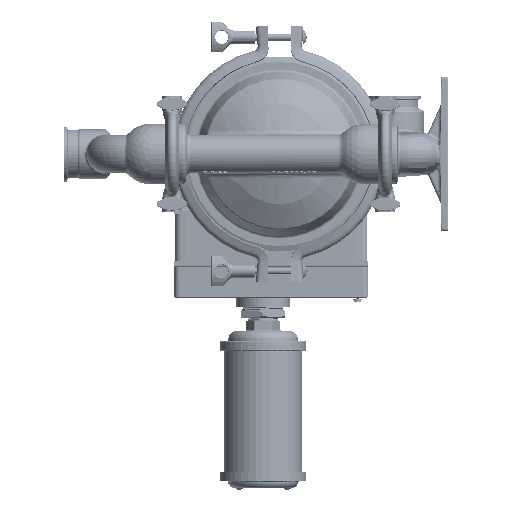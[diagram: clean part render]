
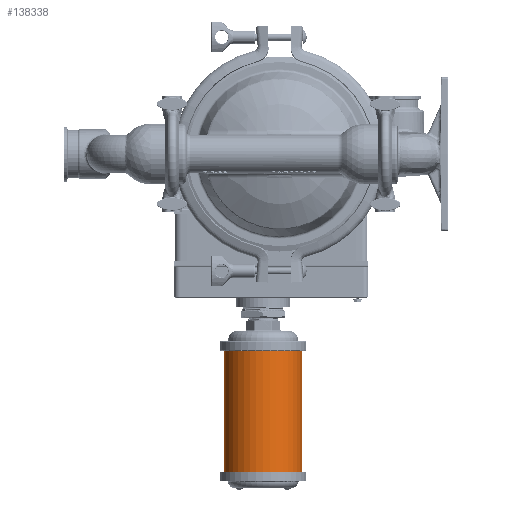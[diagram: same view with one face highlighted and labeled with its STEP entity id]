
A CAD part, left-side view. The second image highlights one B-rep face of the part: STEP entity #138338.
In plain terms, the highlighted cylindrical face has radius 45.339 mm (diameter 90.678 mm), a partial arc.
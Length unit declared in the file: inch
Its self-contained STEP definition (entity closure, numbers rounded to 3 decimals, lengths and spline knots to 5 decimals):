
#7232=CARTESIAN_POINT('',(0.,0.75,-8.983));
#7233=DIRECTION('',(0.,0.,1.));
#7234=DIRECTION('',(0.,1.,0.));
#7235=AXIS2_PLACEMENT_3D('',#7232,#7233,#7234);
#7257=CARTESIAN_POINT('',(0.,0.75,-14.483));
#7258=DIRECTION('',(0.,0.,-1.));
#7259=DIRECTION('',(0.,-1.,0.));
#7260=AXIS2_PLACEMENT_3D('',#7257,#7258,#7259);
#7430=DIRECTION('',(0.,0.,1.));
#7431=VECTOR('',#7430,5.5);
#7432=CARTESIAN_POINT('',(0.,2.535,-14.483));
#7433=LINE('',#7432,#7431);
#7434=DIRECTION('',(0.,0.,-1.));
#7435=VECTOR('',#7434,5.5);
#7436=CARTESIAN_POINT('',(0.,-1.035,-8.983));
#7437=LINE('',#7436,#7435);
#120527=CARTESIAN_POINT('',(0.,-1.035,-8.983));
#120528=CARTESIAN_POINT('',(0.,-1.035,-14.483));
#120529=VERTEX_POINT('',#120527);
#120530=VERTEX_POINT('',#120528);
#120531=CARTESIAN_POINT('',(0.,2.535,-8.983));
#120532=VERTEX_POINT('',#120531);
#120533=CARTESIAN_POINT('',(0.,2.535,-14.483));
#120534=VERTEX_POINT('',#120533);
#138324=CARTESIAN_POINT('',(0.,0.75,-15.592));
#138325=DIRECTION('',(0.,0.,1.));
#138326=DIRECTION('',(0.,-1.,0.));
#138327=AXIS2_PLACEMENT_3D('',#138324,#138325,#138326);
#138328=CYLINDRICAL_SURFACE('',#138327,1.785);
#138330=ORIENTED_EDGE('',*,*,#138329,.T.);
#138332=ORIENTED_EDGE('',*,*,#138331,.T.);
#138333=ORIENTED_EDGE('',*,*,#138317,.T.);
#138335=ORIENTED_EDGE('',*,*,#138334,.T.);
#138336=EDGE_LOOP('',(#138330,#138332,#138333,#138335));
#138337=FACE_OUTER_BOUND('',#138336,.F.);
#138338=ADVANCED_FACE('',(#138337),#138328,.T.);
#7236=CIRCLE('',#7235,1.785);
#7261=CIRCLE('',#7260,1.785);
#138317=EDGE_CURVE('',#120532,#120529,#7236,.T.);
#138329=EDGE_CURVE('',#120530,#120534,#7261,.T.);
#138331=EDGE_CURVE('',#120534,#120532,#7433,.T.);
#138334=EDGE_CURVE('',#120529,#120530,#7437,.T.);
